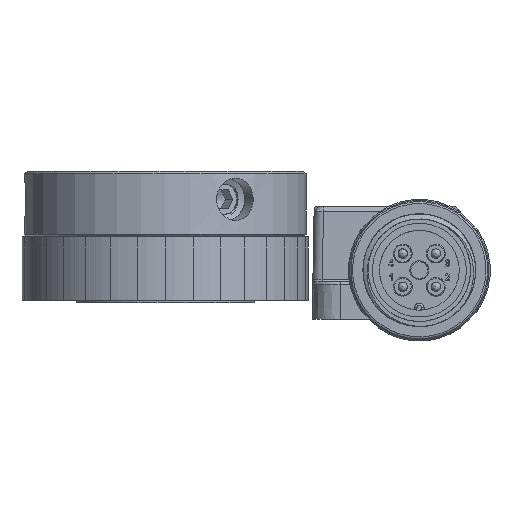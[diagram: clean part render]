
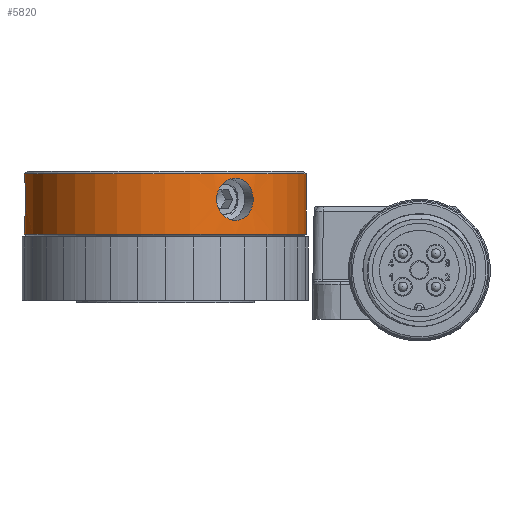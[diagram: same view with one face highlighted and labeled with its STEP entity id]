
A CAD part, left-side view. The second image highlights one B-rep face of the part: STEP entity #5820.
In plain terms, the highlighted cylindrical face has radius 15 mm (diameter 30 mm), a full revolution.
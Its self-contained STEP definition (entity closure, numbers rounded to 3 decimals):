
#220=CYLINDRICAL_SURFACE('',#8708,15.);
#418=CIRCLE('',#8709,15.);
#419=CIRCLE('',#8710,15.);
#763=B_SPLINE_CURVE_WITH_KNOTS('',3,(#11958,#11959,#11960,#11961,#11962,
#11963,#11964,#11965,#11966,#11967,#11968),.UNSPECIFIED.,.T.,.F.,(1,1,1,
1,1,1,1,1,1,1,1,1,1,1,1),(-0.005,-0.004,-0.002,
0.,0.002,0.004,0.005,
0.007,0.009,0.011,0.012,
0.014,0.016,0.018,0.019),
 .UNSPECIFIED.);
#764=B_SPLINE_CURVE_WITH_KNOTS('',3,(#11970,#11971,#11972,#11973,#11974,
#11975,#11976,#11977,#11978,#11979,#11980),.UNSPECIFIED.,.T.,.F.,(1,1,1,
1,1,1,1,1,1,1,1,1,1,1,1),(-0.005,-0.004,-0.002,
0.,0.002,0.004,0.005,
0.007,0.009,0.011,0.012,
0.014,0.016,0.018,0.019),
 .UNSPECIFIED.);
#1818=ORIENTED_EDGE('',*,*,#3260,.F.);
#1819=ORIENTED_EDGE('',*,*,#3261,.F.);
#1820=ORIENTED_EDGE('',*,*,#3262,.T.);
#1821=ORIENTED_EDGE('',*,*,#3263,.T.);
#3260=EDGE_CURVE('',#4003,#4003,#763,.T.);
#3261=EDGE_CURVE('',#4004,#4004,#764,.T.);
#3262=EDGE_CURVE('',#4005,#4005,#418,.F.);
#3263=EDGE_CURVE('',#4006,#4006,#419,.F.);
#4003=VERTEX_POINT('',#11969);
#4004=VERTEX_POINT('',#11981);
#4005=VERTEX_POINT('',#11983);
#4006=VERTEX_POINT('',#11985);
#4520=EDGE_LOOP('',(#1818));
#4521=EDGE_LOOP('',(#1819));
#4522=EDGE_LOOP('',(#1820));
#4523=EDGE_LOOP('',(#1821));
#5090=FACE_BOUND('',#4520,.T.);
#5091=FACE_BOUND('',#4521,.T.);
#5092=FACE_BOUND('',#4522,.T.);
#5093=FACE_BOUND('',#4523,.T.);
#5820=ADVANCED_FACE('',(#5090,#5091,#5092,#5093),#220,.T.);
#8708=AXIS2_PLACEMENT_3D('',#11957,#9749,#9750);
#8709=AXIS2_PLACEMENT_3D('',#11982,#9751,#9752);
#8710=AXIS2_PLACEMENT_3D('',#11984,#9753,#9754);
#9749=DIRECTION('',(0.,0.,1.));
#9750=DIRECTION('',(1.,0.,0.));
#9751=DIRECTION('',(0.,0.,1.));
#9752=DIRECTION('',(1.,0.,0.));
#9753=DIRECTION('',(0.,0.,-1.));
#9754=DIRECTION('',(-1.,0.,0.));
#11957=CARTESIAN_POINT('',(0.,0.,0.));
#11958=CARTESIAN_POINT('',(-1.765,14.915,4.762));
#11959=CARTESIAN_POINT('',(0.,15.042,5.494));
#11960=CARTESIAN_POINT('',(1.763,14.916,4.762));
#11961=CARTESIAN_POINT('',(2.493,14.788,3.002));
#11962=CARTESIAN_POINT('',(1.764,14.916,1.237));
#11963=CARTESIAN_POINT('',(0.001,15.042,0.507));
#11964=CARTESIAN_POINT('',(-1.761,14.916,1.235));
#11965=CARTESIAN_POINT('',(-2.493,14.788,2.998));
#11966=CARTESIAN_POINT('',(-1.765,14.915,4.762));
#11967=CARTESIAN_POINT('',(0.,15.042,5.494));
#11968=CARTESIAN_POINT('',(1.763,14.916,4.762));
#11969=CARTESIAN_POINT('',(0.,15.,5.25));
#11970=CARTESIAN_POINT('',(13.8,-5.929,4.762));
#11971=CARTESIAN_POINT('',(13.027,-7.521,5.494));
#11972=CARTESIAN_POINT('',(12.036,-8.985,4.762));
#11973=CARTESIAN_POINT('',(11.56,-9.553,3.002));
#11974=CARTESIAN_POINT('',(12.035,-8.985,1.237));
#11975=CARTESIAN_POINT('',(13.027,-7.522,0.507));
#11976=CARTESIAN_POINT('',(13.798,-5.933,1.235));
#11977=CARTESIAN_POINT('',(14.053,-5.234,2.998));
#11978=CARTESIAN_POINT('',(13.8,-5.929,4.762));
#11979=CARTESIAN_POINT('',(13.027,-7.521,5.494));
#11980=CARTESIAN_POINT('',(12.036,-8.985,4.762));
#11981=CARTESIAN_POINT('',(12.99,-7.5,5.25));
#11982=CARTESIAN_POINT('',(0.,0.,6.7));
#11983=CARTESIAN_POINT('',(15.,0.,6.7));
#11984=CARTESIAN_POINT('',(0.,0.,0.3));
#11985=CARTESIAN_POINT('',(-15.,0.,0.3));
